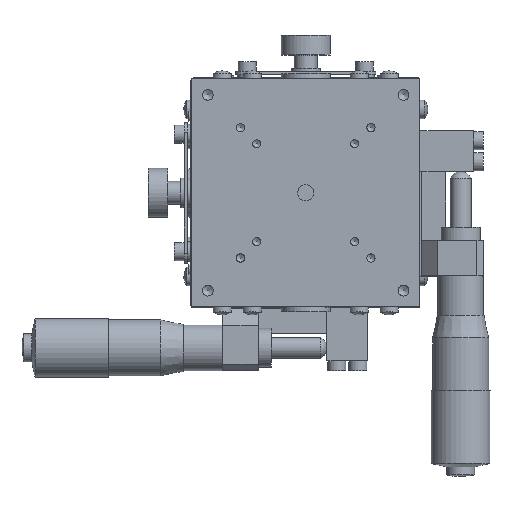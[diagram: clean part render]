
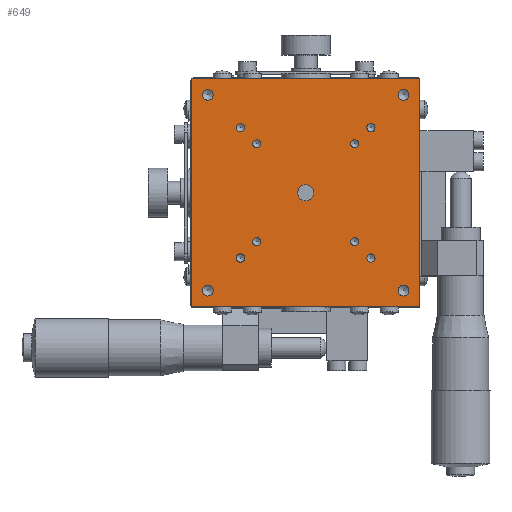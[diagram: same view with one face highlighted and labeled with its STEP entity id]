
A CAD part, top view. The second image highlights one B-rep face of the part: STEP entity #649.
In plain terms, the highlighted planar face has unit normal (0, 0, 1).
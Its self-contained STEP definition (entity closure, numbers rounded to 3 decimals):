
#649 = ADVANCED_FACE( '', ( #1631, #1632, #1633, #1634, #1635, #1636, #1637, #1638, #1639, #1640, #1641, #1642, #1643, #1644 ), #1645, .T. );
#1631 = FACE_BOUND( '', #2824, .T. );
#1632 = FACE_BOUND( '', #2825, .T. );
#1633 = FACE_BOUND( '', #2826, .T. );
#1634 = FACE_BOUND( '', #2827, .T. );
#1635 = FACE_BOUND( '', #2828, .T. );
#1636 = FACE_BOUND( '', #2829, .T. );
#1637 = FACE_BOUND( '', #2830, .T. );
#1638 = FACE_BOUND( '', #2831, .T. );
#1639 = FACE_BOUND( '', #2832, .T. );
#1640 = FACE_BOUND( '', #2833, .T. );
#1641 = FACE_BOUND( '', #2834, .T. );
#1642 = FACE_BOUND( '', #2835, .T. );
#1643 = FACE_OUTER_BOUND( '', #2836, .T. );
#1644 = FACE_BOUND( '', #2837, .T. );
#1645 = PLANE( '', #2838 );
#2824 = EDGE_LOOP( '', ( #5524 ) );
#2825 = EDGE_LOOP( '', ( #5525 ) );
#2826 = EDGE_LOOP( '', ( #5526 ) );
#2827 = EDGE_LOOP( '', ( #5527 ) );
#2828 = EDGE_LOOP( '', ( #5528 ) );
#2829 = EDGE_LOOP( '', ( #5529 ) );
#2830 = EDGE_LOOP( '', ( #5530 ) );
#2831 = EDGE_LOOP( '', ( #5531 ) );
#2832 = EDGE_LOOP( '', ( #5532 ) );
#2833 = EDGE_LOOP( '', ( #5533 ) );
#2834 = EDGE_LOOP( '', ( #5534 ) );
#2835 = EDGE_LOOP( '', ( #5535 ) );
#2836 = EDGE_LOOP( '', ( #5536, #5537, #5538, #5539 ) );
#2837 = EDGE_LOOP( '', ( #5540 ) );
#2838 = AXIS2_PLACEMENT_3D( '', #5541, #5542, #5543 );
#5524 = ORIENTED_EDGE( '', *, *, #6886, .T. );
#5525 = ORIENTED_EDGE( '', *, *, #6887, .T. );
#5526 = ORIENTED_EDGE( '', *, *, #6888, .T. );
#5527 = ORIENTED_EDGE( '', *, *, #6889, .T. );
#5528 = ORIENTED_EDGE( '', *, *, #6890, .T. );
#5529 = ORIENTED_EDGE( '', *, *, #6891, .T. );
#5530 = ORIENTED_EDGE( '', *, *, #6892, .T. );
#5531 = ORIENTED_EDGE( '', *, *, #6893, .T. );
#5532 = ORIENTED_EDGE( '', *, *, #6894, .T. );
#5533 = ORIENTED_EDGE( '', *, *, #6895, .T. );
#5534 = ORIENTED_EDGE( '', *, *, #6896, .T. );
#5535 = ORIENTED_EDGE( '', *, *, #6897, .T. );
#5536 = ORIENTED_EDGE( '', *, *, #6877, .F. );
#5537 = ORIENTED_EDGE( '', *, *, #6898, .F. );
#5538 = ORIENTED_EDGE( '', *, *, #6899, .F. );
#5539 = ORIENTED_EDGE( '', *, *, #6866, .F. );
#5540 = ORIENTED_EDGE( '', *, *, #6900, .T. );
#5541 = CARTESIAN_POINT( '', ( 0., 0., 52. ) );
#5542 = DIRECTION( '', ( 0., 0., 1. ) );
#5543 = DIRECTION( '', ( -0.744, 0.668, 0. ) );
#6866 = EDGE_CURVE( '', #8202, #8204, #8205, .T. );
#6877 = EDGE_CURVE( '', #8223, #8202, #8225, .T. );
#6886 = EDGE_CURVE( '', #8241, #8241, #8242, .T. );
#6887 = EDGE_CURVE( '', #8243, #8243, #8244, .T. );
#6888 = EDGE_CURVE( '', #8245, #8245, #8246, .T. );
#6889 = EDGE_CURVE( '', #8247, #8247, #8248, .T. );
#6890 = EDGE_CURVE( '', #8249, #8249, #8250, .T. );
#6891 = EDGE_CURVE( '', #8251, #8251, #8252, .T. );
#6892 = EDGE_CURVE( '', #8253, #8253, #8254, .T. );
#6893 = EDGE_CURVE( '', #8255, #8255, #8256, .T. );
#6894 = EDGE_CURVE( '', #8257, #8257, #8258, .T. );
#6895 = EDGE_CURVE( '', #8259, #8259, #8260, .T. );
#6896 = EDGE_CURVE( '', #8261, #8261, #8262, .T. );
#6897 = EDGE_CURVE( '', #8263, #8263, #8264, .T. );
#6898 = EDGE_CURVE( '', #8265, #8223, #8266, .T. );
#6899 = EDGE_CURVE( '', #8204, #8265, #8267, .T. );
#6900 = EDGE_CURVE( '', #8268, #8268, #8269, .T. );
#8202 = VERTEX_POINT( '', #10550 );
#8204 = VERTEX_POINT( '', #10553 );
#8205 = LINE( '', #10554, #10555 );
#8223 = VERTEX_POINT( '', #10579 );
#8225 = LINE( '', #10582, #10583 );
#8241 = VERTEX_POINT( '', #10605 );
#8242 = CIRCLE( '', #10606, 1.25 );
#8243 = VERTEX_POINT( '', #10607 );
#8244 = CIRCLE( '', #10608, 1.25 );
#8245 = VERTEX_POINT( '', #10609 );
#8246 = CIRCLE( '', #10610, 1.25 );
#8247 = VERTEX_POINT( '', #10611 );
#8248 = CIRCLE( '', #10612, 1.25 );
#8249 = VERTEX_POINT( '', #10613 );
#8250 = CIRCLE( '', #10614, 1.25 );
#8251 = VERTEX_POINT( '', #10615 );
#8252 = CIRCLE( '', #10616, 1.25 );
#8253 = VERTEX_POINT( '', #10617 );
#8254 = CIRCLE( '', #10618, 1.25 );
#8255 = VERTEX_POINT( '', #10619 );
#8256 = CIRCLE( '', #10620, 1.25 );
#8257 = VERTEX_POINT( '', #10621 );
#8258 = CIRCLE( '', #10622, 1.65 );
#8259 = VERTEX_POINT( '', #10623 );
#8260 = CIRCLE( '', #10624, 1.65 );
#8261 = VERTEX_POINT( '', #10625 );
#8262 = CIRCLE( '', #10626, 1.65 );
#8263 = VERTEX_POINT( '', #10627 );
#8264 = CIRCLE( '', #10628, 1.65 );
#8265 = VERTEX_POINT( '', #10629 );
#8266 = LINE( '', #10630, #10631 );
#8267 = LINE( '', #10632, #10633 );
#8268 = VERTEX_POINT( '', #10634 );
#8269 = CIRCLE( '', #10635, 2.5 );
#10550 = CARTESIAN_POINT( '', ( -35., -35., 52. ) );
#10553 = CARTESIAN_POINT( '', ( -35., 35., 52. ) );
#10554 = CARTESIAN_POINT( '', ( -35., 0., 52. ) );
#10555 = VECTOR( '', #12138, 1000. );
#10579 = CARTESIAN_POINT( '', ( 35., -35., 52. ) );
#10582 = CARTESIAN_POINT( '', ( 0., -35., 52. ) );
#10583 = VECTOR( '', #12155, 1000. );
#10605 = CARTESIAN_POINT( '', ( 16.25, -15., 52. ) );
#10606 = AXIS2_PLACEMENT_3D( '', #12168, #12169, #12170 );
#10607 = CARTESIAN_POINT( '', ( 16.25, 15., 52. ) );
#10608 = AXIS2_PLACEMENT_3D( '', #12171, #12172, #12173 );
#10609 = CARTESIAN_POINT( '', ( -13.75, 15., 52. ) );
#10610 = AXIS2_PLACEMENT_3D( '', #12174, #12175, #12176 );
#10611 = CARTESIAN_POINT( '', ( -13.75, -15., 52. ) );
#10612 = AXIS2_PLACEMENT_3D( '', #12177, #12178, #12179 );
#10613 = CARTESIAN_POINT( '', ( 21.25, -20., 52. ) );
#10614 = AXIS2_PLACEMENT_3D( '', #12180, #12181, #12182 );
#10615 = CARTESIAN_POINT( '', ( 21.25, 20., 52. ) );
#10616 = AXIS2_PLACEMENT_3D( '', #12183, #12184, #12185 );
#10617 = CARTESIAN_POINT( '', ( -18.75, 20., 52. ) );
#10618 = AXIS2_PLACEMENT_3D( '', #12186, #12187, #12188 );
#10619 = CARTESIAN_POINT( '', ( -18.75, -20., 52. ) );
#10620 = AXIS2_PLACEMENT_3D( '', #12189, #12190, #12191 );
#10621 = CARTESIAN_POINT( '', ( 30., -31.65, 52. ) );
#10622 = AXIS2_PLACEMENT_3D( '', #12192, #12193, #12194 );
#10623 = CARTESIAN_POINT( '', ( 30., 28.35, 52. ) );
#10624 = AXIS2_PLACEMENT_3D( '', #12195, #12196, #12197 );
#10625 = CARTESIAN_POINT( '', ( -30., 28.35, 52. ) );
#10626 = AXIS2_PLACEMENT_3D( '', #12198, #12199, #12200 );
#10627 = CARTESIAN_POINT( '', ( -30., -31.65, 52. ) );
#10628 = AXIS2_PLACEMENT_3D( '', #12201, #12202, #12203 );
#10629 = CARTESIAN_POINT( '', ( 35., 35., 52. ) );
#10630 = CARTESIAN_POINT( '', ( 35., 0., 52. ) );
#10631 = VECTOR( '', #12204, 1000. );
#10632 = CARTESIAN_POINT( '', ( 0., 35., 52. ) );
#10633 = VECTOR( '', #12205, 1000. );
#10634 = CARTESIAN_POINT( '', ( 0., -2.5, 52. ) );
#10635 = AXIS2_PLACEMENT_3D( '', #12206, #12207, #12208 );
#12138 = DIRECTION( '', ( 0., 1., 0. ) );
#12155 = DIRECTION( '', ( -1., 0., 0. ) );
#12168 = CARTESIAN_POINT( '', ( 15., -15., 52. ) );
#12169 = DIRECTION( '', ( 0., 0., -1. ) );
#12170 = DIRECTION( '', ( 1., 0., 0. ) );
#12171 = CARTESIAN_POINT( '', ( 15., 15., 52. ) );
#12172 = DIRECTION( '', ( 0., 0., -1. ) );
#12173 = DIRECTION( '', ( 1., 0., 0. ) );
#12174 = CARTESIAN_POINT( '', ( -15., 15., 52. ) );
#12175 = DIRECTION( '', ( 0., 0., -1. ) );
#12176 = DIRECTION( '', ( 1., 0., 0. ) );
#12177 = CARTESIAN_POINT( '', ( -15., -15., 52. ) );
#12178 = DIRECTION( '', ( 0., 0., -1. ) );
#12179 = DIRECTION( '', ( 1., 0., 0. ) );
#12180 = CARTESIAN_POINT( '', ( 20., -20., 52. ) );
#12181 = DIRECTION( '', ( 0., 0., -1. ) );
#12182 = DIRECTION( '', ( 1., 0., 0. ) );
#12183 = CARTESIAN_POINT( '', ( 20., 20., 52. ) );
#12184 = DIRECTION( '', ( 0., 0., -1. ) );
#12185 = DIRECTION( '', ( 1., 0., 0. ) );
#12186 = CARTESIAN_POINT( '', ( -20., 20., 52. ) );
#12187 = DIRECTION( '', ( 0., 0., -1. ) );
#12188 = DIRECTION( '', ( 1., 0., 0. ) );
#12189 = CARTESIAN_POINT( '', ( -20., -20., 52. ) );
#12190 = DIRECTION( '', ( 0., 0., -1. ) );
#12191 = DIRECTION( '', ( 1., 0., 0. ) );
#12192 = CARTESIAN_POINT( '', ( 30., -30., 52. ) );
#12193 = DIRECTION( '', ( 0., 0., -1. ) );
#12194 = DIRECTION( '', ( 0., -1., 0. ) );
#12195 = CARTESIAN_POINT( '', ( 30., 30., 52. ) );
#12196 = DIRECTION( '', ( 0., 0., -1. ) );
#12197 = DIRECTION( '', ( 0., -1., 0. ) );
#12198 = CARTESIAN_POINT( '', ( -30., 30., 52. ) );
#12199 = DIRECTION( '', ( 0., 0., -1. ) );
#12200 = DIRECTION( '', ( 0., -1., 0. ) );
#12201 = CARTESIAN_POINT( '', ( -30., -30., 52. ) );
#12202 = DIRECTION( '', ( 0., 0., -1. ) );
#12203 = DIRECTION( '', ( 0., -1., 0. ) );
#12204 = DIRECTION( '', ( 0., -1., 0. ) );
#12205 = DIRECTION( '', ( 1., 0., 0. ) );
#12206 = CARTESIAN_POINT( '', ( 0., 0., 52. ) );
#12207 = DIRECTION( '', ( 0., 0., -1. ) );
#12208 = DIRECTION( '', ( 0., -1., 0. ) );
